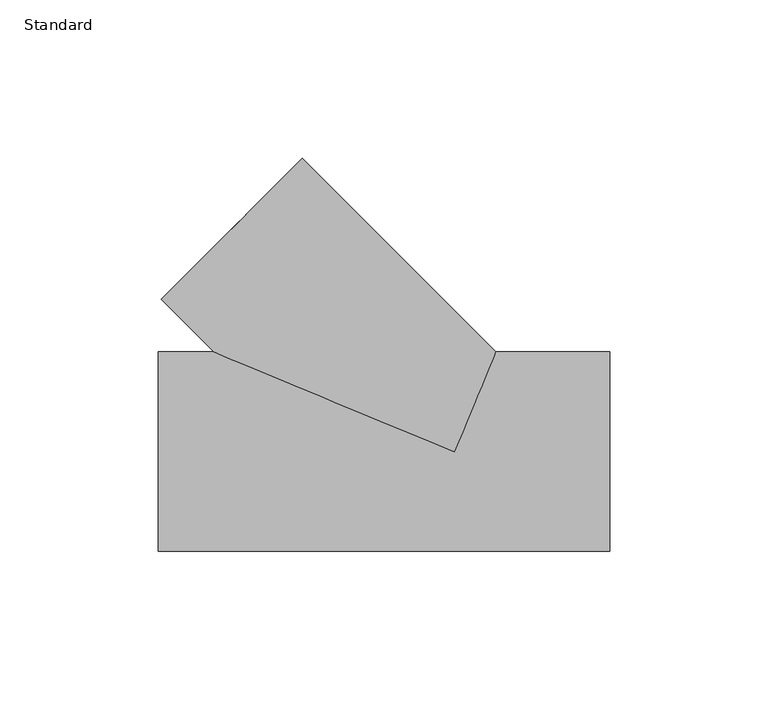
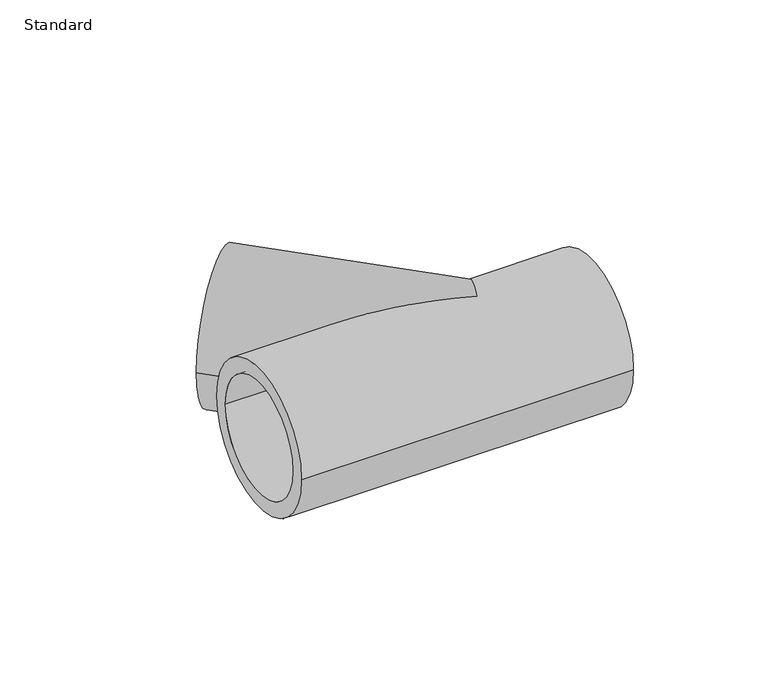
"""IFC4 building model written with IfcOpenShell, lengths in millimetres: pipe fitting geometry, Durapipe_PipeFitting_PVC_Tee45deg : Standard."""

from ifc_helpers import new_model, si_unit, frame, origin, place, context, project, spatial, polyline, circle_curve, ellipse_curve, source, transform, mapped, element, save
from ifc_brep_helpers import plane_surface, cylinder_surface, revolved_surface, advanced_brep


def standard_45c3dce5(model_context):
    return source(origin(), model_context, "Body", "AdvancedBrep", [
        advanced_brep(
        [(-92.6309883, 48.0832611, 0.0), (-48.0832611, 92.6309883, 0.0), (-88.0347943, 52.6794552, 0.0), (-52.6794552, 88.0347943, 0.0), (-76.0477272, 31.5, 0.0), (0.0, 0.0, 31.5), (13.0477272, 31.5, 0.0), (0.0, 0.0, -31.5), (-93.5, -31.5, 0.0), (-93.5, 31.5, 0.0), (-93.5, -25.0, 0.0), (-93.5, 25.0, 0.0), (49.0, -31.5, 0.0), (49.0, 31.5, 0.0), (49.0, 25.0, 0.0), (49.0, -25.0, 0.0), (-48.4368145, 48.4368145, 0.0), (-30.759145, 66.114484, 0.0), (-66.114484, 30.759145, 0.0), (-56.5, -25.0, 0.0), (-56.5, 0.0, 0.0), (-56.5, 25.0, 0.0), (12.0, -25.0, 0.0), (12.0, 25.0, 0.0), (12.0, 0.0, 0.0)],
        [
            (0, 1, circle_curve(frame((-70.3571247, 70.3571247, 0.0), z_axis=(-0.7071067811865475, 0.7071067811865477, 0.0), x_axis=(0.7071067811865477, 0.7071067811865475, 0.0)), 31.5)),
            (1, 0, circle_curve(frame((-70.3571247, 70.3571247, 0.0), z_axis=(-0.7071067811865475, 0.7071067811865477, 0.0), x_axis=(0.7071067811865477, 0.7071067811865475, 0.0)), 31.5)),
            (2, 3, circle_curve(frame((-70.3571247, 70.3571247, 0.0), z_axis=(0.707106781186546, -0.707106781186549, 0.0), x_axis=(-0.707106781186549, -0.707106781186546, 0.0)), 25.0)),
            (3, 2, circle_curve(frame((-70.3571247, 70.3571247, 0.0), z_axis=(0.707106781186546, -0.707106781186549, 0.0), x_axis=(-0.707106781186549, -0.707106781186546, 0.0)), 25.0)),
            (0, 4),
            (4, 5, ellipse_curve(frame((0.0, 0.0, 0.0), z_axis=(0.3826834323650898, 0.9238795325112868, 0.0), x_axis=(-0.9238795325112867, 0.38268343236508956, 0.0)), 82.3134668, 31.5)),
            (5, 6, ellipse_curve(frame((0.0, 0.0, 0.0), z_axis=(-0.9238795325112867, 0.3826834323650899, 0.0), x_axis=(0.3826834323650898, 0.9238795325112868, 0.0)), 34.0953543, 31.5)),
            (6, 1),
            (6, 7, ellipse_curve(frame((0.0, 0.0, 0.0), z_axis=(-0.9238795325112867, 0.3826834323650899, 0.0), x_axis=(0.3826834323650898, 0.9238795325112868, 0.0)), 34.0953543, 31.5)),
            (7, 4, ellipse_curve(frame((0.0, 0.0, 0.0), z_axis=(0.3826834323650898, 0.9238795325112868, 0.0), x_axis=(-0.9238795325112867, 0.38268343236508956, 0.0)), 82.3134668, 31.5)),
            (8, 9, circle_curve(frame((-93.5, 0.0, 0.0), z_axis=(-1.0, 0.0, 0.0), x_axis=(0.0, 1.0, 0.0)), 31.5)),
            (9, 8, circle_curve(frame((-93.5, 0.0, 0.0), z_axis=(-1.0, 0.0, 0.0), x_axis=(0.0, 1.0, 0.0)), 31.5)),
            (10, 11, circle_curve(frame((-93.5, 0.0, 0.0), z_axis=(1.0, 0.0, 0.0), x_axis=(0.0, 1.0, 0.0)), 25.0)),
            (11, 10, circle_curve(frame((-93.5, 0.0, 0.0), z_axis=(1.0, 0.0, 0.0), x_axis=(0.0, 1.0, 0.0)), 25.0)),
            (12, 13, circle_curve(frame((49.0, 0.0, 0.0), z_axis=(1.0, 0.0, 0.0), x_axis=(0.0, 1.0, 0.0)), 31.5)),
            (13, 12, circle_curve(frame((49.0, 0.0, 0.0), z_axis=(1.0, 0.0, 0.0), x_axis=(0.0, 1.0, 0.0)), 31.5)),
            (14, 15, circle_curve(frame((49.0, 0.0, 0.0), z_axis=(-1.0, 0.0, 0.0), x_axis=(0.0, 1.0, 0.0)), 25.0)),
            (15, 14, circle_curve(frame((49.0, 0.0, 0.0), z_axis=(-1.0, 0.0, 0.0), x_axis=(0.0, 1.0, 0.0)), 25.0)),
            (8, 12),
            (13, 6),
            (4, 9),
            (16, 17),
            (17, 18, circle_curve(frame((-48.4368145, 48.4368145, 0.0), z_axis=(-0.707106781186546, 0.707106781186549, 0.0), x_axis=(-0.707106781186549, -0.707106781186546, 0.0)), 25.0)),
            (18, 16),
            (18, 17, circle_curve(frame((-48.4368145, 48.4368145, 0.0), z_axis=(-0.707106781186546, 0.707106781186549, 0.0), x_axis=(-0.707106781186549, -0.707106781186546, 0.0)), 25.0)),
            (17, 3),
            (2, 18),
            (19, 20),
            (20, 21),
            (21, 19, circle_curve(frame((-56.5, 0.0, 0.0), z_axis=(-1.0, 0.0, 0.0), x_axis=(0.0, 1.0, 0.0)), 25.0)),
            (19, 21, circle_curve(frame((-56.5, 0.0, 0.0), z_axis=(-1.0, 0.0, 0.0), x_axis=(0.0, 1.0, 0.0)), 25.0)),
            (21, 11),
            (10, 19),
            (22, 15),
            (14, 23),
            (23, 22, circle_curve(frame((12.0, 0.0, 0.0), z_axis=(-1.0, 0.0, 0.0), x_axis=(0.0, 1.0, 0.0)), 25.0)),
            (22, 23, circle_curve(frame((12.0, 0.0, 0.0), z_axis=(-1.0, 0.0, 0.0), x_axis=(0.0, 1.0, 0.0)), 25.0)),
            (23, 24),
            (24, 22),
        ],
        [
            plane_surface(frame((-70.3571247, 70.3571247, 0.0), z_axis=(-0.7071067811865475, 0.7071067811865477, 0.0), x_axis=(0.0, 0.0, 1.0))),
            cylinder_surface(frame((-70.3571247, 70.3571247, 0.0), z_axis=(-0.7071067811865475, 0.7071067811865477, 0.0), x_axis=(0.7071067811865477, 0.7071067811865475, 0.0)), 31.5),
            plane_surface(frame((-93.5, 0.0, 0.0), z_axis=(-1.0, 0.0, 0.0), x_axis=(0.0, 0.0, 1.0))),
            plane_surface(frame((49.0, 0.0, 0.0), z_axis=(1.0, 0.0, 0.0), x_axis=(0.0, 0.0, 1.0))),
            cylinder_surface(frame((-93.5, 0.0, 0.0), z_axis=(-1.0, 0.0, 0.0), x_axis=(0.0, 1.0, 0.0)), 31.5),
            plane_surface(frame((-48.4368145, 48.4368145, 0.0), z_axis=(-0.707106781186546, 0.707106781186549, 0.0), x_axis=(-0.707106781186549, -0.707106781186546, 0.0))),
            revolved_surface(polyline([(-66.11448402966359, 30.75914497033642, 0.0), (-88.0347942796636, 52.679455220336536, 0.0)]), (0.0, 0.0, 0.0), (0.707106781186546, -0.707106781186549, 0.0)),
            plane_surface(frame((-56.5, 0.0, 0.0), z_axis=(-1.0, 0.0, 0.0), x_axis=(0.0, 1.0, 0.0))),
            revolved_surface(polyline([(-93.5, 25.0, 0.0), (-56.5, 25.0, 0.0)]), (2025.0, 0.0, 0.0), (-1.0, 0.0, 0.0)),
            revolved_surface(polyline([(12.0, 25.0, 0.0), (49.0, 25.0, 0.0)]), (1994.0, 0.0, 0.0), (-1.0, 0.0, 0.0)),
            plane_surface(frame((12.0, 0.0, 0.0), z_axis=(1.0, 0.0, 0.0), x_axis=(0.0, 1.0, 0.0))),
        ],
        [
            (0, [[1, 2], [3, 4]]),
            (1, [[-1, 5, 6, 7, 8]]),
            (1, [[-2, -8, 9, 10, -5]]),
            (2, [[11, 12], [13, 14]]),
            (3, [[15, 16], [17, 18]]),
            (4, [[-11, 19, -16, 20, -7, -6, 21]]),
            (4, [[-12, -21, -10, -9, -20, -15, -19]]),
            (5, [[22, 23, 24]]),
            (5, [[-22, -24, 25]]),
            (6, [[-23, 26, -3, 27]]),
            (6, [[-25, -27, -4, -26]]),
            (7, [[28, 29, 30]]),
            (7, [[-28, 31, -29]]),
            (8, [[-30, 32, -13, 33]]),
            (8, [[-31, -33, -14, -32]]),
            (9, [[34, -17, 35, 36]]),
            (9, [[-34, 37, -35, -18]]),
            (10, [[-36, 38, 39]]),
            (10, [[-37, -39, -38]]),
        ],
    ),
    ])


if __name__ == "__main__":
    model = new_model("IFC4")
    model_context = context("Model", 3, world=origin())
    ifc_project = project(units=[si_unit("LENGTHUNIT", "METRE", prefix="MILLI")], contexts=[model_context])
    site = spatial("IfcSite", under=ifc_project)
    building = spatial("IfcBuilding", under=site)
    placement = place(None, origin())
    standard_shape = standard_45c3dce5(model_context)
    element("IfcPipeFitting", 1, ObjectType="Durapipe_PipeFitting_PVC_Tee45deg : Standard", at=placement, inside=building, context=model_context, shape_type="MappedRepresentation", body=[
        mapped(standard_shape, transform((0.0, 0.0, 0.0), x_axis=(1.0, 0.0, 0.0), y_axis=(0.0, 1.0, 0.0), z_axis=(0.0, 0.0, 1.0))),
    ])
    save(model, "model.ifc")
